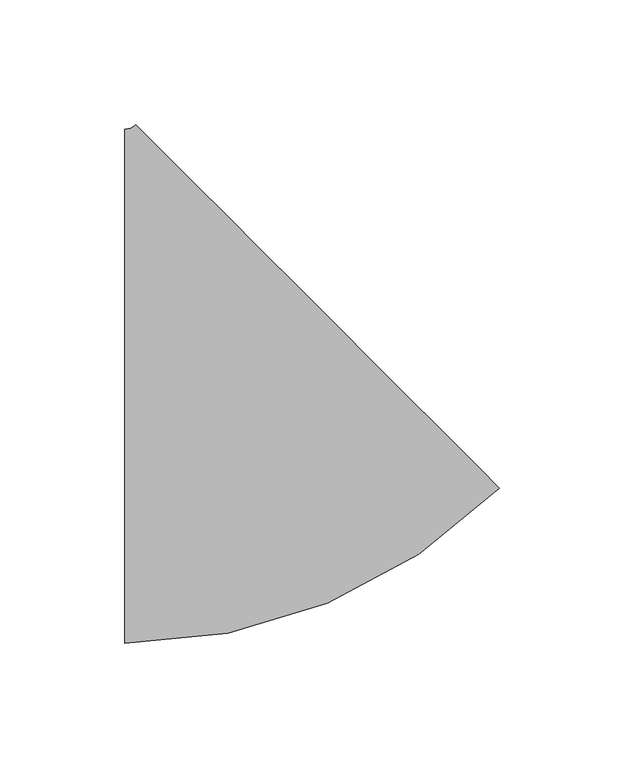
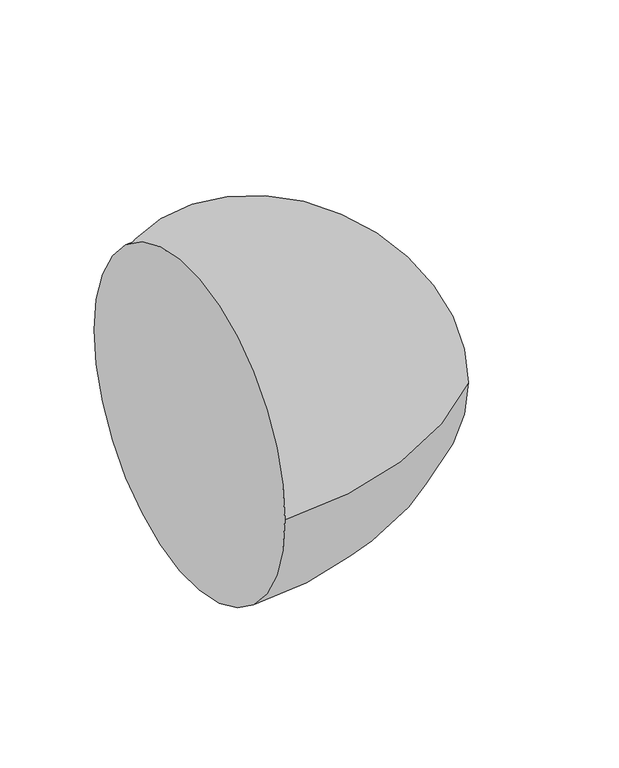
"""IFC4 building model written with IfcOpenShell, lengths in millimetres: pipe fitting geometry, M_Codo - Genérico : Estándar."""

from ifc_helpers import new_model, si_unit, point, frame, origin, place, context, project, spatial, circle_curve, ellipse_curve, trimmed, source, transform, mapped, element, save
from ifc_brep_helpers import plane_surface, revolved_surface, advanced_brep


def pipe_fitting_2f575cfb(model_context):
    return source(origin(), model_context, "Body", "AdvancedBrep", [
        advanced_brep(
        [(-45.3719664, -103.1875, 0.0), (-45.3719664, 103.1875, 0.0), (105.0474369, -40.8816767, 0.0), (-40.881835, 105.0473753, 0.0)],
        [
            (0, 1, circle_curve(frame((-45.3719664, 0.0, 0.0), z_axis=(-1.0, 0.0, 0.0), x_axis=(0.0, 1.0, 0.0)), 103.1875)),
            (1, 0, circle_curve(frame((-45.3719664, 0.0, 0.0), z_axis=(-1.0, 0.0, 0.0), x_axis=(0.0, 1.0, 0.0)), 103.1875)),
            (2, 3, circle_curve(frame((32.082801, 32.0828493, 0.0), z_axis=(0.7071062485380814, 0.7071073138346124, 0.0), x_axis=(-0.7071073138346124, 0.7071062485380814, 0.0)), 103.1875)),
            (3, 2, circle_curve(frame((32.082801, 32.0828493, 0.0), z_axis=(0.7071062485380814, 0.7071073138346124, 0.0), x_axis=(-0.7071073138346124, 0.7071062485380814, 0.0)), 103.1875)),
            (3, 1, circle_curve(frame((-45.3719664, 109.5375, 0.0), z_axis=(0.0, 0.0, -1.0), x_axis=(0.0, -1.0, 0.0)), 6.35)),
            (0, 2, circle_curve(frame((-45.3719664, 109.5375, 0.0), z_axis=(0.0, 0.0, 1.0), x_axis=(0.0, -1.0, 0.0)), 212.725)),
        ],
        [
            plane_surface(frame((-45.3719664, 0.0, 0.0), z_axis=(-1.0, 0.0, 0.0), x_axis=(0.0, 0.0, 1.0))),
            plane_surface(frame((32.082801, 32.0828493, 0.0), z_axis=(0.7071062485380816, 0.7071073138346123, 0.0), x_axis=(0.0, 0.0, 1.0))),
            revolved_surface(trimmed(ellipse_curve(frame((-45.3719664, 0.0, 0.0), z_axis=(-1.0, 0.0, 0.0), x_axis=(0.0, 1.0, 0.0)), 103.1875, 103.1875), [point((-45.3719664, -103.1875, 0.0))], [point((-45.3719664, 103.1875, 0.0))], True, "CARTESIAN"), (-45.3719664, 109.5375, 0.0), (0.0, 0.0, 1.0)),
            revolved_surface(trimmed(ellipse_curve(frame((-45.3719664, 0.0, 0.0), z_axis=(-1.0, 0.0, 0.0), x_axis=(0.0, 1.0, 0.0)), 103.1875, 103.1875), [point((-45.3719664, 103.1875, 0.0))], [point((-45.3719664, -103.1875, 0.0))], True, "CARTESIAN"), (-45.3719664, 109.5375, 0.0), (0.0, 0.0, 1.0)),
        ],
        [
            (0, [[1, 2]]),
            (1, [[3, 4]]),
            (2, [[5, -1, 6, -4]]),
            (3, [[-6, -2, -5, -3]]),
        ],
    ),
    ])


if __name__ == "__main__":
    model = new_model("IFC4")
    model_context = context("Model", 3, world=origin())
    ifc_project = project(units=[si_unit("LENGTHUNIT", "METRE", prefix="MILLI")], contexts=[model_context])
    site = spatial("IfcSite", under=ifc_project)
    building = spatial("IfcBuilding", under=site)
    placement = place(None, origin())
    pipe_fitting_shape = pipe_fitting_2f575cfb(model_context)
    element("IfcPipeFitting", 1, ObjectType="M_Codo - Genérico : Estándar", at=placement, inside=building, context=model_context, shape_type="MappedRepresentation", body=[
        mapped(pipe_fitting_shape, transform((0.0, 0.0, 0.0), x_axis=(1.0, 0.0, 0.0), y_axis=(0.0, 1.0, 0.0), z_axis=(0.0, 0.0, 1.0))),
    ])
    save(model, "model.ifc")
